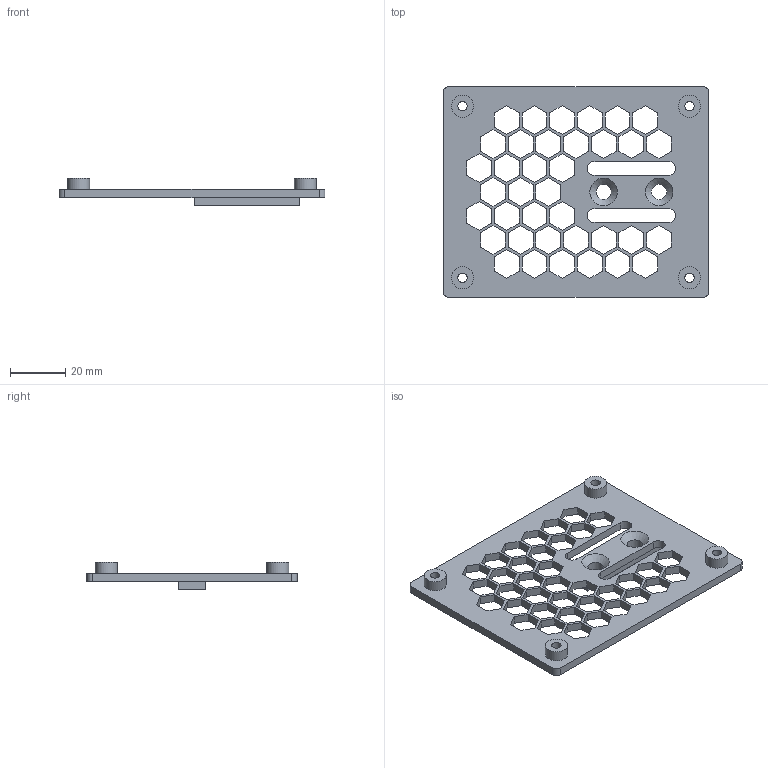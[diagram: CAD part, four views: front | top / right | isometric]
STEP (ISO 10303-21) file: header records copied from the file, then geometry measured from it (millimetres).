
FILE_DESCRIPTION(('Open CASCADE Model'),'2;1');
FILE_NAME('PcbHolder','2026-06-25T14:49:36',('Author'),('Open CASCADE'), 'Open CASCADE STEP processor 7.8','build123d','Unknown');
FILE_SCHEMA(('AUTOMOTIVE_DESIGN { 1 0 10303 214 1 1 1 1 }'));
Length unit declared in the file: millimetre
Products named in the file (1): PcbHolder
Bounding box: 96 x 76 x 10 mm (x, y, z)
Volume: 14363.4 mm3; surface area: 14721.2 mm2
Topology: 1 solids, 1 shells, 281 faces, 808 edges, 538 vertices
Faces by surface type: plane 261, cylinder 18, cone 2
Full cylindrical faces by diameter (mm): 3.4 x4, 5.5 x2, 8 x4
Entity records: 19810 total; most frequent: CARTESIAN_POINT 3388, DIRECTION 3002, LINE 2350, VECTOR 2350, ORIENTED_EDGE 1616, PCURVE 1616, DEFINITIONAL_REPRESENTATION 1616, EDGE_CURVE 808
